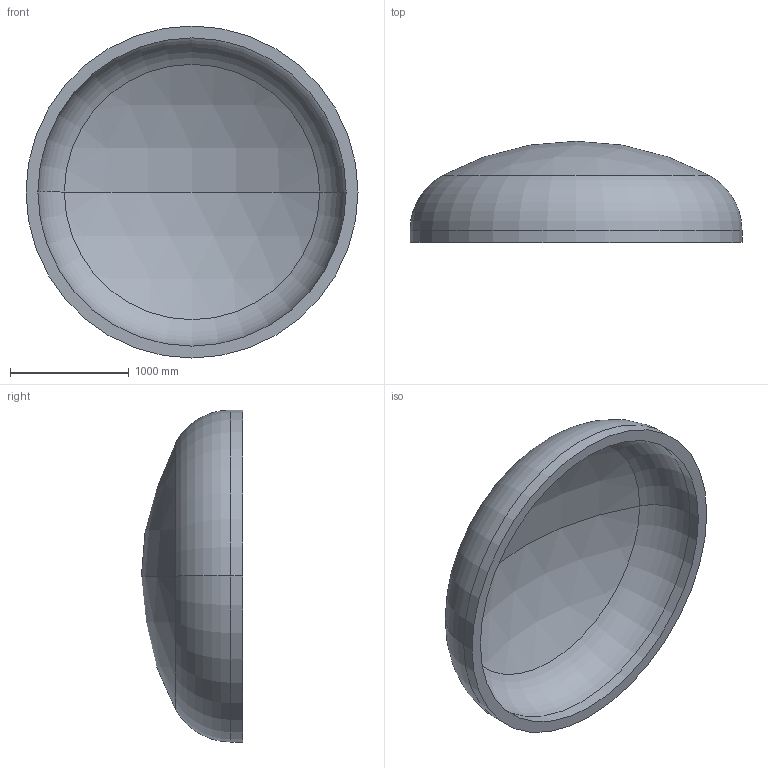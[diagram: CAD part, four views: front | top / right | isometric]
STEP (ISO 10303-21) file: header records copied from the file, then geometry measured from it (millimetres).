
FILE_DESCRIPTION (( 'STEP AP203' ), '1' );
FILE_NAME ('DIN 28013 Korbbogenform_-_Boden DIN 28013 - 2800 x 100 - I - s=100.step', '2016-07-01T17:17:56', ( '' ), ( '' ), 'SwSTEP 2.0', 'SolidWorks 2013', '' );
FILE_SCHEMA (( 'CONFIG_CONTROL_DESIGN' ));
Length unit declared in the file: millimetre
Products named in the file (1): DIN 28013 Korbbogenform_-_Boden DIN 28013 - 2800 x 100 - I - s=100
Bounding box: 2800 x 852.8 x 2800 mm (x, y, z)
Volume: 898475153.2 mm3; surface area: 18838671.4 mm2
Topology: 1 solids, 1 shells, 13 faces, 24 edges, 14 vertices
Faces by surface type: torus 4, cylinder 4, sphere 4, plane 1
Entity records: 407 total; most frequent: DIRECTION 72, CARTESIAN_POINT 52, ORIENTED_EDGE 48, AXIS2_PLACEMENT_3D 34, EDGE_CURVE 24, CIRCLE 20, VERTEX_POINT 14, EDGE_LOOP 14
